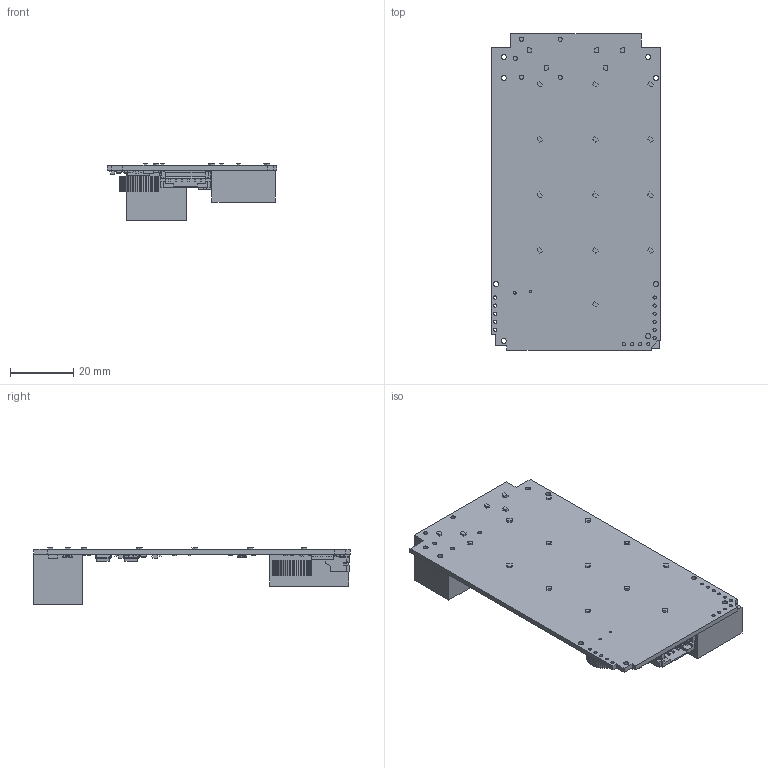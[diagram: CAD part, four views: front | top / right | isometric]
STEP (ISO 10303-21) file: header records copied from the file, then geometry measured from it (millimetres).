
FILE_DESCRIPTION(('Open CASCADE Model'),'2;1');
FILE_NAME('Open CASCADE Shape Model','2017-11-27T13:48:21',('Author'),( 'Open CASCADE'),'Open CASCADE STEP processor 6.8','Open CASCADE 6.8' ,'Unknown');
FILE_SCHEMA(('AUTOMOTIVE_DESIGN { 1 0 10303 214 1 1 1 1 }'));
Length unit declared in the file: millimetre
Products named in the file (176): PCB; Board; C15; 750673928; Extruded; 750674064; QZ1; 750676240; C19; 750674200; C18; Q1; CircuitWorks-SOT-23; U3; U1; 750676376; R47; 750674472; 750674336; R46; 750673112; 750673248; R45; R44; 750676104; R43; R42; R41; R40; R39; R38; R35; R37; R33; 750675016; 750674880; R32; 750675968; 750675832; R34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
Assembly tree (380 placements, depth 4):
  PCB
    Board
    C15
      750673928  x2
        Extruded
      750674064
        Extruded
    QZ1
      750676240
        Extruded
    C19
      750674200  x2
        Extruded
      750674064
        Extruded
    C18
      750674200  x2
        Extruded
      750674064
        Extruded
    Q1
      CircuitWorks-SOT-23
    U3
      CircuitWorks-SOT-23
    U1
      750676376
        Extruded
    R47
      750674472  x2
        Extruded
      750674336
        Extruded
    R46
      750673112  x2
        Extruded
      750673248
        Extruded
    R45
      750673112  x2
        Extruded
      750673248
        Extruded
    R44
      750676104
        Extruded
      750673112
        Extruded
      750673248
        Extruded
    R43
      750676104  x2
        Extruded
      750673248
        Extruded
    R42
      750673112  x2
        Extruded
      750673248
        Extruded
    R41
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Bounding box: 53.6 x 100 x 17.97 mm (x, y, z)
Volume: 19666.8 mm3; surface area: 17901.9 mm2
Topology: 243 solids, 243 shells, 2214 faces, 5026 edges, 3300 vertices
Faces by surface type: plane 2090, cylinder 124
Full cylindrical faces by diameter (mm): 0.8 x2, 1 x10, 1.016 x5, 1.3 x5, 1.6 x8
Entity records: 27331 total; most frequent: DIRECTION 4094, CARTESIAN_POINT 4031, ORIENTED_EDGE 3568, EDGE_CURVE 1784, LINE 1648, VECTOR 1648, AXIS2_PLACEMENT_3D 1223, VERTEX_POINT 1160
